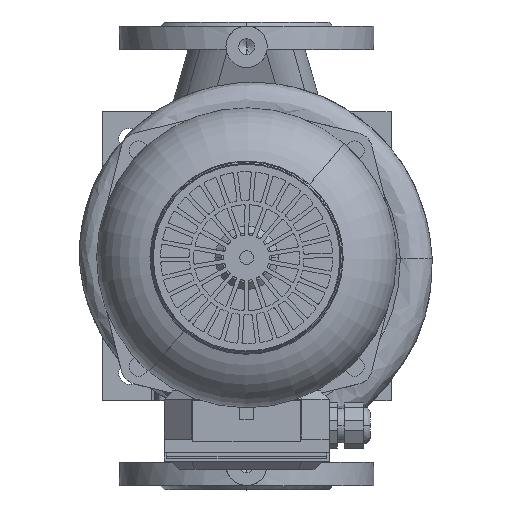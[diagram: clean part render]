
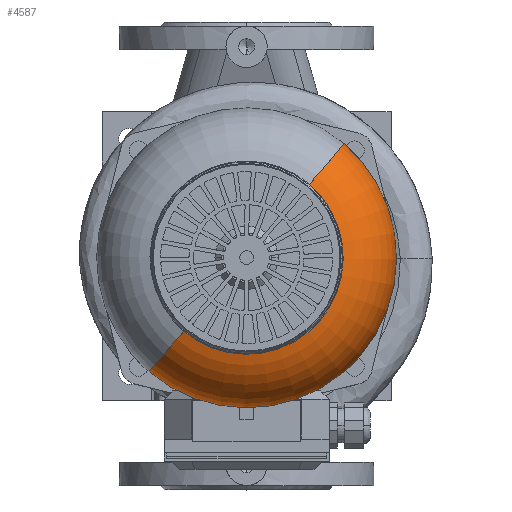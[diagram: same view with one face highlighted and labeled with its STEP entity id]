
A CAD part, top view. The second image highlights one B-rep face of the part: STEP entity #4587.
In plain terms, the highlighted toroidal (fillet/blend) face has major radius 59 mm and minor radius 50 mm.
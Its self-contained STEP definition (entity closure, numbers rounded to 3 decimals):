
#4587=ADVANCED_FACE('NONE',(#10922),#10923,.T.);
#10922=FACE_OUTER_BOUND('',#17375,.T.);
#10923=TOROIDAL_SURFACE('',#17376,59.0,50.0);
#17375=EDGE_LOOP('',(#25698,#25699,#25700,#25701));
#17376=AXIS2_PLACEMENT_3D('',#25702,#25703,#25704);
#25698=ORIENTED_EDGE('',*,*,#35164,.F.);
#25699=ORIENTED_EDGE('',*,*,#35163,.T.);
#25700=ORIENTED_EDGE('',*,*,#35165,.F.);
#25701=ORIENTED_EDGE('',*,*,#35166,.T.);
#25702=CARTESIAN_POINT('',(49.225,0.0,0.0));
#25703=DIRECTION('',(1.0,0.,0.));
#25704=DIRECTION('',(0.,0.,-1.0));
#35163=EDGE_CURVE('NONE',#43917,#43921,#43923,.T.);
#35164=EDGE_CURVE('',#43917,#43924,#43925,.T.);
#35165=EDGE_CURVE('',#43926,#43921,#43927,.T.);
#35166=EDGE_CURVE('NONE',#43926,#43924,#43928,.T.);
#43917=VERTEX_POINT('',#57567);
#43921=VERTEX_POINT('NONE',#57572);
#43923=CIRCLE('',#57575,109.);
#43924=VERTEX_POINT('NONE',#57576);
#43925=CIRCLE('',#57577,50.0);
#43926=VERTEX_POINT('',#57578);
#43927=CIRCLE('',#57579,50.0);
#43928=CIRCLE('',#57580,70.229);
#57567=CARTESIAN_POINT('',(49.225,0.,-109.));
#57572=CARTESIAN_POINT('',(49.225,0.,109.0));
#57575=AXIS2_PLACEMENT_3D('',#65170,#65171,#65172);
#57576=CARTESIAN_POINT('',(97.948,0.,-70.229));
#57577=AXIS2_PLACEMENT_3D('',#65173,#65174,#65175);
#57578=CARTESIAN_POINT('',(97.948,0.,70.229));
#57579=AXIS2_PLACEMENT_3D('',#65176,#65177,#65178);
#57580=AXIS2_PLACEMENT_3D('',#65179,#65180,#65181);
#65170=CARTESIAN_POINT('',(49.225,0.0,0.0));
#65171=DIRECTION('',(1.0,0.,0.));
#65172=DIRECTION('',(0.,0.,-1.0));
#65173=CARTESIAN_POINT('',(49.225,0.,-59.0));
#65174=DIRECTION('',(0.,-1.0,0.));
#65175=DIRECTION('',(0.,0.,-1.0));
#65176=CARTESIAN_POINT('',(49.225,0.,59.0));
#65177=DIRECTION('',(0.,-1.0,0.));
#65178=DIRECTION('',(0.,0.,1.0));
#65179=CARTESIAN_POINT('',(97.948,0.0,0.0));
#65180=DIRECTION('',(-1.0,0.,0.));
#65181=DIRECTION('',(0.,0.,1.0));
